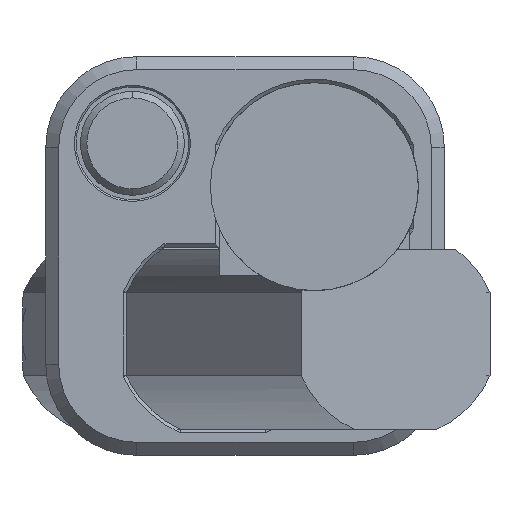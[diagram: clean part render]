
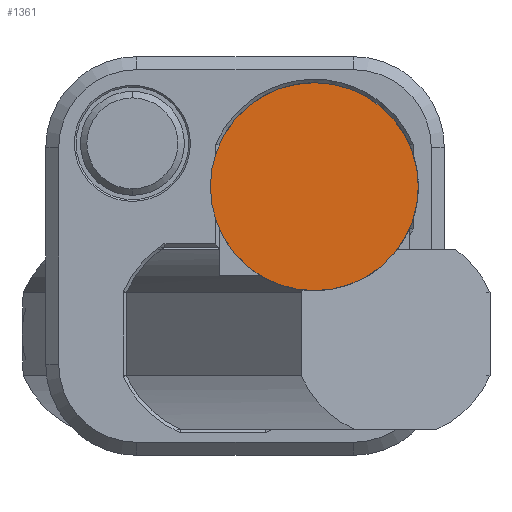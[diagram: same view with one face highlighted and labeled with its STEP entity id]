
A CAD part, front view. The second image highlights one B-rep face of the part: STEP entity #1361.
In plain terms, the highlighted planar face has unit normal (0, -1, 0) as drawn and (0, 1, 0) by its records, which use the part's own axes.
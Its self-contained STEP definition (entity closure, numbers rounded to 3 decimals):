
#558 = DIRECTION ( 'NONE',  ( 0., 0., 1. ) ) ;
#1069 = AXIS2_PLACEMENT_3D ( 'NONE', #4453, #2603, #1347 ) ;
#1264 = ORIENTED_EDGE ( 'NONE', *, *, #3225, .T. ) ;
#1347 = DIRECTION ( 'NONE',  ( 0., 0., 1. ) ) ;
#1355 = FACE_OUTER_BOUND ( 'NONE', #2147, .T. ) ;
#1361 = ADVANCED_FACE ( 'NONE', ( #1355 ), #2054, .T. ) ;
#1847 = CIRCLE ( 'NONE', #1069, 12. ) ;
#2054 = PLANE ( 'NONE',  #4671 ) ;
#2088 = CIRCLE ( 'NONE', #3132, 12. ) ;
#2147 = EDGE_LOOP ( 'NONE', ( #1264, #6075 ) ) ;
#2432 = EDGE_CURVE ( 'NONE', #7793, #7156, #1847, .T. ) ;
#2603 = DIRECTION ( 'NONE',  ( 0., 1., 0. ) ) ;
#2660 = DIRECTION ( 'NONE',  ( 0., 0., 1. ) ) ;
#3132 = AXIS2_PLACEMENT_3D ( 'NONE', #5637, #5520, #558 ) ;
#3225 = EDGE_CURVE ( 'NONE', #7156, #7793, #2088, .T. ) ;
#4453 = CARTESIAN_POINT ( 'NONE',  ( 0., 495., 0. ) ) ;
#4671 = AXIS2_PLACEMENT_3D ( 'NONE', #6431, #7574, #2660 ) ;
#5520 = DIRECTION ( 'NONE',  ( 0., 1., 0. ) ) ;
#5637 = CARTESIAN_POINT ( 'NONE',  ( 0., 495., 0. ) ) ;
#6075 = ORIENTED_EDGE ( 'NONE', *, *, #2432, .T. ) ;
#6431 = CARTESIAN_POINT ( 'NONE',  ( 0., 495., 0. ) ) ;
#6781 = CARTESIAN_POINT ( 'NONE',  ( 0., 495., -12. ) ) ;
#7156 = VERTEX_POINT ( 'NONE', #6781 ) ;
#7218 = CARTESIAN_POINT ( 'NONE',  ( 0., 495., 12. ) ) ;
#7574 = DIRECTION ( 'NONE',  ( 0., 1., 0. ) ) ;
#7793 = VERTEX_POINT ( 'NONE', #7218 ) ;
